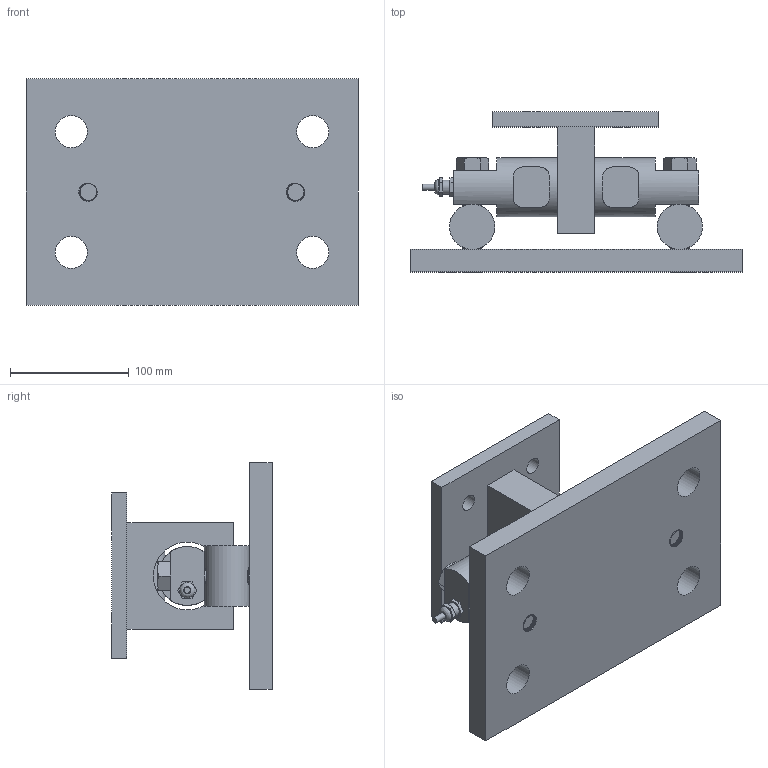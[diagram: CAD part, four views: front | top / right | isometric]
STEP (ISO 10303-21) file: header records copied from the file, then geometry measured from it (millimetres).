
FILE_DESCRIPTION(/* description */ (''),/* implementation_level */ '2;1');
FILE_NAME(/* name */ 'C:/Users/fardi/Dropbox/Work/Anyload/Load Cell Models/Product Catalog 3D/Weight Modules/102/102DHM3/102DHM3-(5-20)klb v7.step',/* time_stamp */ '2020-04-03T10:58:56-07:00',/* author */ (''),/* organization */ (''),/* preprocessor_version */ 'ST-DEVELOPER v18',/* originating_system */ 'Autodesk Translation Framework v8.12.0.6',/* authorisation */ '');
FILE_SCHEMA (('AUTOMOTIVE_DESIGN { 1 0 10303 214 3 1 1 }'));
Length unit declared in the file: millimetre
Products named in the file (7): 102DHM3-(5-20)klb; Base; Support; 102DH-(5-20)klb; Connector; 91257A830; Top
Assembly tree (7 placements, depth 3):
  102DHM3-(5-20)klb
    Base
    Support
    102DH-(5-20)klb
      Connector
    91257A830  x2
    Top
Bounding box: 279.4 x 134.87 x 190.5 mm (x, y, z)
Volume: 1833276.9 mm3; surface area: 273024.6 mm2
Topology: 8 solids, 8 shells, 393 faces, 1037 edges, 684 vertices
Faces by surface type: cylinder 240, plane 124, cone 19, bspline 9, torus 1
Full cylindrical faces by diameter (mm): 5.1 x1, 10 x1, 12 x2, 13 x1, 14.042 x52, 14.2 x4, 14.516 x30, 15.875 x80, 16.764 x2, 17 x2, 26.9 x4, 38.1 x2, 49.53 x2, 57.2 x1
Entity records: 20087 total; most frequent: CARTESIAN_POINT 13269, ORIENTED_EDGE 1500, DIRECTION 1194, EDGE_CURVE 750, VERTEX_POINT 495, AXIS2_PLACEMENT_3D 424, LINE 346, VECTOR 346
